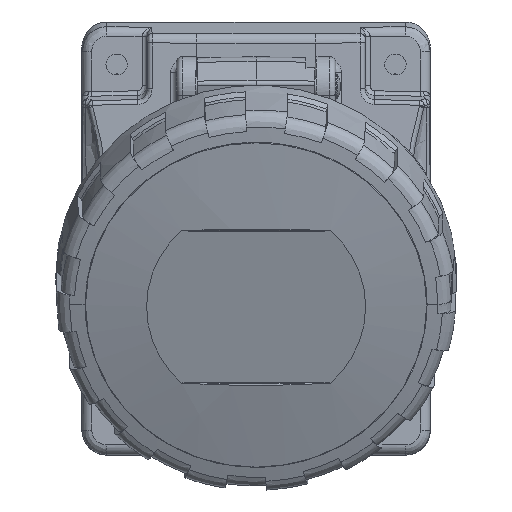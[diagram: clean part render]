
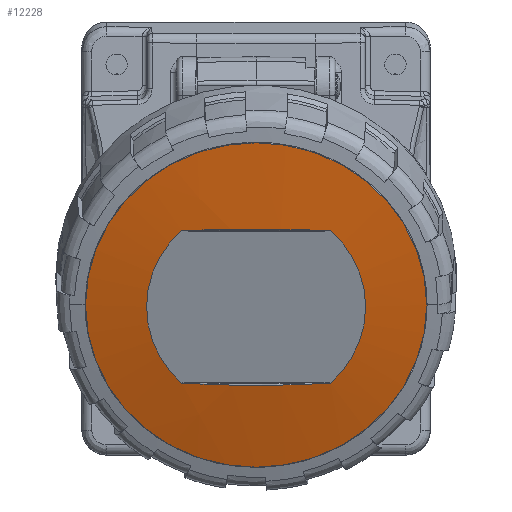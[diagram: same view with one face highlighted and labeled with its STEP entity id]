
A CAD part, front view. The second image highlights one B-rep face of the part: STEP entity #12228.
In plain terms, the highlighted spherical face has radius 291.997 mm.
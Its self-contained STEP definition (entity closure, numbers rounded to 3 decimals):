
#58=SPHERICAL_SURFACE('',#35674,291.997);
#9695=FACE_BOUND('',#14935,.T.);
#9696=FACE_BOUND('',#14936,.T.);
#10805=CIRCLE('',#35664,233.91);
#10806=CIRCLE('',#35666,22.001);
#10807=CIRCLE('',#35667,22.001);
#10809=CIRCLE('',#35672,34.266);
#10810=CIRCLE('',#35673,233.909);
#12228=ADVANCED_FACE('',(#9695,#9696),#58,.T.);
#14935=EDGE_LOOP('',(#20837));
#14936=EDGE_LOOP('',(#20838,#20839,#20840,#20841));
#20837=ORIENTED_EDGE('',*,*,#29511,.T.);
#20838=ORIENTED_EDGE('',*,*,#29503,.F.);
#20839=ORIENTED_EDGE('',*,*,#29508,.F.);
#20840=ORIENTED_EDGE('',*,*,#29512,.F.);
#20841=ORIENTED_EDGE('',*,*,#29504,.F.);
#25474=VERTEX_POINT('',#80588);
#25476=VERTEX_POINT('',#80622);
#25477=VERTEX_POINT('',#80626);
#25480=VERTEX_POINT('',#80701);
#25481=VERTEX_POINT('',#80709);
#29503=EDGE_CURVE('',#25476,#25474,#10805,.T.);
#29504=EDGE_CURVE('',#25474,#25477,#10806,.T.);
#29508=EDGE_CURVE('',#25480,#25476,#10807,.T.);
#29511=EDGE_CURVE('',#25481,#25481,#10809,.T.);
#29512=EDGE_CURVE('',#25477,#25480,#10810,.T.);
#35664=AXIS2_PLACEMENT_3D('',#80623,#40241,#40242);
#35666=AXIS2_PLACEMENT_3D('',#80625,#40245,#40246);
#35667=AXIS2_PLACEMENT_3D('',#80702,#40248,#40249);
#35672=AXIS2_PLACEMENT_3D('',#80708,#40259,#40260);
#35673=AXIS2_PLACEMENT_3D('',#80710,#40261,#40262);
#35674=AXIS2_PLACEMENT_3D('',#80711,#40263,#40264);
#40241=DIRECTION('',(0.,-0.848,0.53));
#40242=DIRECTION('',(0.,-0.53,-0.848));
#40245=DIRECTION('',(0.,-0.951,-0.309));
#40246=DIRECTION('',(0.,-0.309,0.951));
#40248=DIRECTION('',(0.,-0.951,-0.309));
#40249=DIRECTION('',(0.,-0.309,0.951));
#40259=DIRECTION('',(0.,-0.951,-0.309));
#40260=DIRECTION('',(0.,-0.309,0.951));
#40261=DIRECTION('',(0.,-0.375,-0.927));
#40262=DIRECTION('',(0.,0.927,-0.375));
#40263=DIRECTION('',(1.,0.,0.));
#40264=DIRECTION('',(0.,-0.309,0.951));
#80588=CARTESIAN_POINT('',(14.939,97.013,14.125));
#80622=CARTESIAN_POINT('',(-14.927,97.013,14.125));
#80623=CARTESIAN_POINT('',(0.006,220.714,212.087));
#80625=CARTESIAN_POINT('',(0.006,92.021,29.491));
#80626=CARTESIAN_POINT('',(14.939,87.028,44.858));
#80701=CARTESIAN_POINT('',(-14.927,87.028,44.858));
#80702=CARTESIAN_POINT('',(0.006,92.021,29.491));
#80708=CARTESIAN_POINT('',(0.006,93.15,29.858));
#80709=CARTESIAN_POINT('',(0.006,82.561,62.447));
#80710=CARTESIAN_POINT('',(0.006,303.462,-42.588));
#80711=CARTESIAN_POINT('',(0.006,368.937,119.467));
